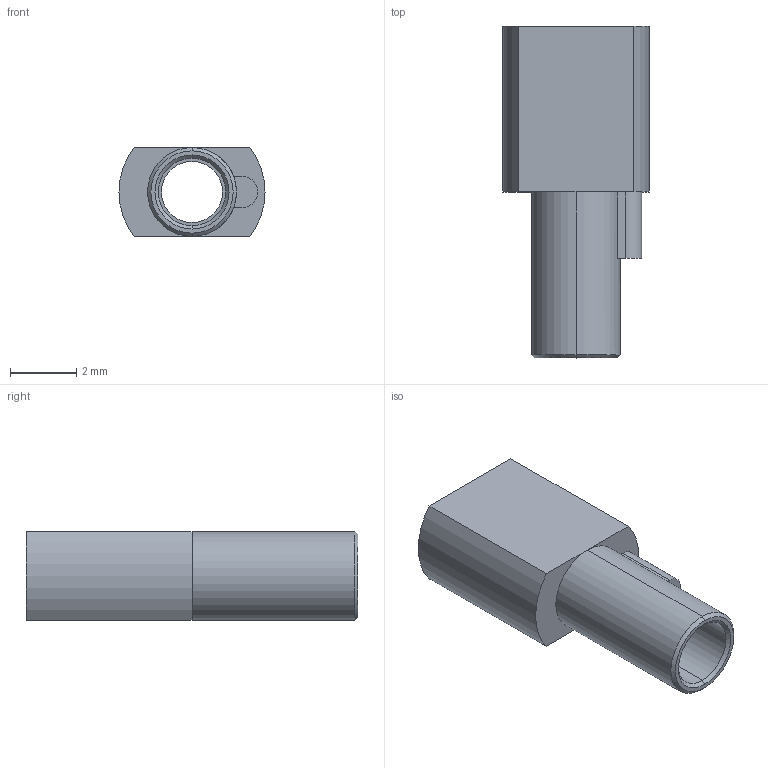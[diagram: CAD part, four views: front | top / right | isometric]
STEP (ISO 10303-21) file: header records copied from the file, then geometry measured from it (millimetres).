
FILE_DESCRIPTION (( 'STEP AP203' ), '1' );
FILE_NAME ('26-CollimatorHolder.STEP', '2021-10-03T09:14:50', ( '' ), ( '' ), 'SwSTEP 2.0', 'SolidWorks 2020', '' );
FILE_SCHEMA (( 'CONFIG_CONTROL_DESIGN' ));
Length unit declared in the file: millimetre
Products named in the file (1): 26-CollimatorHolder
Bounding box: 4.4 x 10 x 2.68 mm (x, y, z)
Volume: 56.3 mm3; surface area: 181.5 mm2
Topology: 1 solids, 1 shells, 25 faces, 56 edges, 34 vertices
Faces by surface type: plane 10, cylinder 9, cone 6
Entity records: 777 total; most frequent: DIRECTION 134, CARTESIAN_POINT 116, ORIENTED_EDGE 112, EDGE_CURVE 56, AXIS2_PLACEMENT_3D 52, VERTEX_POINT 34, VECTOR 30, LINE 30
